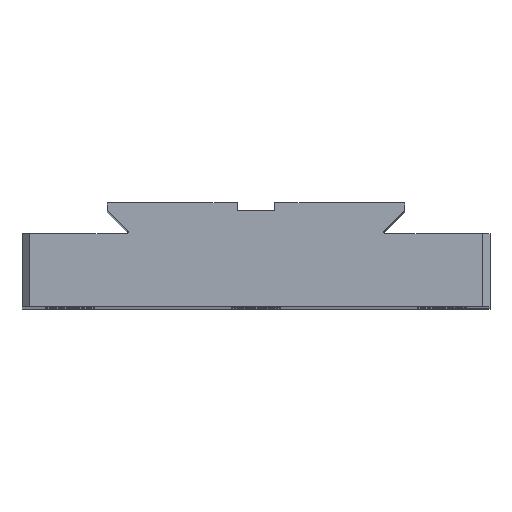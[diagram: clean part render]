
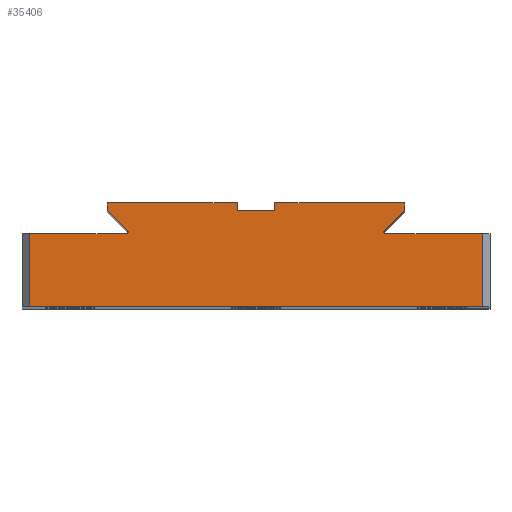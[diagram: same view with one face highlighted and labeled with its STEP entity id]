
A CAD part, top view. The second image highlights one B-rep face of the part: STEP entity #35406.
In plain terms, the highlighted planar face has unit normal (0, 0, 1).
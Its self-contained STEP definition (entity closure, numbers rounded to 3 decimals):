
#63=DIRECTION('',(-1.,0.,0.));
#64=VECTOR('',#63,13.034);
#65=CARTESIAN_POINT('',(8.809,100.504,224.678));
#66=LINE('',#65,#64);
#79=DIRECTION('',(-1.,0.,0.));
#80=VECTOR('',#79,13.034);
#81=CARTESIAN_POINT('',(-39.157,100.504,224.678));
#82=LINE('',#81,#80);
#361=DIRECTION('',(-1.,0.,0.));
#362=VECTOR('',#361,61.);
#363=CARTESIAN_POINT('',(8.809,90.674,224.678));
#364=LINE('',#363,#362);
#13619=DIRECTION('',(0.,1.,0.));
#13620=VECTOR('',#13619,9.83);
#13621=CARTESIAN_POINT('',(8.809,90.674,224.678));
#13622=LINE('',#13621,#13620);
#13623=DIRECTION('',(0.,1.,0.));
#13624=VECTOR('',#13623,9.83);
#13625=CARTESIAN_POINT('',(-52.191,90.674,
224.678));
#13626=LINE('',#13625,#13624);
#13627=DIRECTION('',(0.707,-0.707,0.));
#13628=VECTOR('',#13627,3.841);
#13629=CARTESIAN_POINT('',(-41.693,103.654,
224.678));
#13630=LINE('',#13629,#13628);
#13631=DIRECTION('',(0.707,0.707,0.));
#13632=VECTOR('',#13631,3.841);
#13633=CARTESIAN_POINT('',(-4.404,100.938,
224.678));
#13634=LINE('',#13633,#13632);
#13635=CARTESIAN_POINT('',(-4.224,100.758,
224.678));
#13636=DIRECTION('',(0.,0.,-1.));
#13637=DIRECTION('',(0.,-1.,0.));
#13638=AXIS2_PLACEMENT_3D('',#13635,#13636,#13637);
#13653=CARTESIAN_POINT('',(-39.157,100.758,
224.678));
#13654=DIRECTION('',(0.,0.,-1.));
#13655=DIRECTION('',(0.707,0.707,0.));
#13656=AXIS2_PLACEMENT_3D('',#13653,#13654,#13655);
#13662=DIRECTION('',(0.,1.,0.));
#13663=VECTOR('',#13662,1.016);
#13664=CARTESIAN_POINT('',(-41.693,103.654,
224.678));
#13665=LINE('',#13664,#13663);
#13670=DIRECTION('',(1.,0.,0.));
#13671=VECTOR('',#13670,17.463);
#13672=CARTESIAN_POINT('',(-41.693,104.67,
224.678));
#13673=LINE('',#13672,#13671);
#13674=DIRECTION('',(0.,-1.,0.));
#13675=VECTOR('',#13674,1.016);
#13676=CARTESIAN_POINT('',(-24.231,104.67,
224.678));
#13677=LINE('',#13676,#13675);
#13682=DIRECTION('',(1.,0.,0.));
#13683=VECTOR('',#13682,5.08);
#13684=CARTESIAN_POINT('',(-24.231,103.654,
224.678));
#13685=LINE('',#13684,#13683);
#13690=DIRECTION('',(0.,1.,0.));
#13691=VECTOR('',#13690,1.016);
#13692=CARTESIAN_POINT('',(-19.151,103.654,
224.678));
#13693=LINE('',#13692,#13691);
#13706=DIRECTION('',(1.,0.,0.));
#13707=VECTOR('',#13706,17.463);
#13708=CARTESIAN_POINT('',(-19.151,104.67,
224.678));
#13709=LINE('',#13708,#13707);
#13710=DIRECTION('',(0.,-1.,0.));
#13711=VECTOR('',#13710,1.016);
#13712=CARTESIAN_POINT('',(-1.688,104.67,
224.678));
#13713=LINE('',#13712,#13711);
#13766=CARTESIAN_POINT('',(-41.693,103.654,
224.678));
#13767=CARTESIAN_POINT('',(-38.977,100.938,
224.678));
#13768=VERTEX_POINT('',#13766);
#13769=VERTEX_POINT('',#13767);
#13770=CARTESIAN_POINT('',(-24.231,103.654,
224.678));
#13771=VERTEX_POINT('',#13770);
#13772=CARTESIAN_POINT('',(-24.231,104.67,
224.678));
#13773=VERTEX_POINT('',#13772);
#13774=CARTESIAN_POINT('',(-19.151,103.654,
224.678));
#13775=CARTESIAN_POINT('',(-19.151,104.67,
224.678));
#13776=VERTEX_POINT('',#13774);
#13777=VERTEX_POINT('',#13775);
#13778=CARTESIAN_POINT('',(-41.693,104.67,
224.678));
#13779=VERTEX_POINT('',#13778);
#13780=CARTESIAN_POINT('',(-4.404,100.938,
224.678));
#13781=CARTESIAN_POINT('',(-1.688,103.654,
224.678));
#13782=VERTEX_POINT('',#13780);
#13783=VERTEX_POINT('',#13781);
#13784=CARTESIAN_POINT('',(-1.688,104.67,
224.678));
#13785=VERTEX_POINT('',#13784);
#13786=CARTESIAN_POINT('',(-39.157,100.504,
224.678));
#13787=VERTEX_POINT('',#13786);
#13788=CARTESIAN_POINT('',(-4.224,100.504,
224.678));
#13789=VERTEX_POINT('',#13788);
#13806=CARTESIAN_POINT('',(8.809,100.504,224.678));
#13808=VERTEX_POINT('',#13806);
#13812=CARTESIAN_POINT('',(8.809,90.674,224.678));
#13813=VERTEX_POINT('',#13812);
#13815=CARTESIAN_POINT('',(-52.191,100.504,
224.678));
#13817=VERTEX_POINT('',#13815);
#13818=CARTESIAN_POINT('',(-52.191,90.674,
224.678));
#13819=VERTEX_POINT('',#13818);
#35371=CARTESIAN_POINT('',(9.809,100.504,224.678));
#35372=DIRECTION('',(0.,0.,1.));
#35373=DIRECTION('',(-1.,0.,0.));
#35374=AXIS2_PLACEMENT_3D('',#35371,#35372,#35373);
#35375=PLANE('',#35374);
#35377=ORIENTED_EDGE('',*,*,#35376,.F.);
#35378=ORIENTED_EDGE('',*,*,#14948,.T.);
#35379=ORIENTED_EDGE('',*,*,#35364,.T.);
#35380=ORIENTED_EDGE('',*,*,#14885,.F.);
#35382=ORIENTED_EDGE('',*,*,#35381,.F.);
#35384=ORIENTED_EDGE('',*,*,#35383,.F.);
#35386=ORIENTED_EDGE('',*,*,#35385,.T.);
#35388=ORIENTED_EDGE('',*,*,#35387,.T.);
#35390=ORIENTED_EDGE('',*,*,#35389,.T.);
#35392=ORIENTED_EDGE('',*,*,#35391,.T.);
#35394=ORIENTED_EDGE('',*,*,#35393,.T.);
#35396=ORIENTED_EDGE('',*,*,#35395,.T.);
#35398=ORIENTED_EDGE('',*,*,#35397,.T.);
#35400=ORIENTED_EDGE('',*,*,#35399,.F.);
#35402=ORIENTED_EDGE('',*,*,#35401,.F.);
#35403=ORIENTED_EDGE('',*,*,#14867,.F.);
#35404=EDGE_LOOP('',(#35377,#35378,#35379,#35380,#35382,#35384,#35386,#35388,
#35390,#35392,#35394,#35396,#35398,#35400,#35402,#35403));
#35405=FACE_OUTER_BOUND('',#35404,.F.);
#35406=ADVANCED_FACE('',(#35405),#35375,.T.);
#13639=CIRCLE('',#13638,0.254);
#13657=CIRCLE('',#13656,0.254);
#14867=EDGE_CURVE('',#13808,#13789,#66,.T.);
#14885=EDGE_CURVE('',#13787,#13817,#82,.T.);
#14948=EDGE_CURVE('',#13813,#13819,#364,.T.);
#35364=EDGE_CURVE('',#13819,#13817,#13626,.T.);
#35376=EDGE_CURVE('',#13813,#13808,#13622,.T.);
#35381=EDGE_CURVE('',#13769,#13787,#13657,.T.);
#35383=EDGE_CURVE('',#13768,#13769,#13630,.T.);
#35385=EDGE_CURVE('',#13768,#13779,#13665,.T.);
#35387=EDGE_CURVE('',#13779,#13773,#13673,.T.);
#35389=EDGE_CURVE('',#13773,#13771,#13677,.T.);
#35391=EDGE_CURVE('',#13771,#13776,#13685,.T.);
#35393=EDGE_CURVE('',#13776,#13777,#13693,.T.);
#35395=EDGE_CURVE('',#13777,#13785,#13709,.T.);
#35397=EDGE_CURVE('',#13785,#13783,#13713,.T.);
#35399=EDGE_CURVE('',#13782,#13783,#13634,.T.);
#35401=EDGE_CURVE('',#13789,#13782,#13639,.T.);
